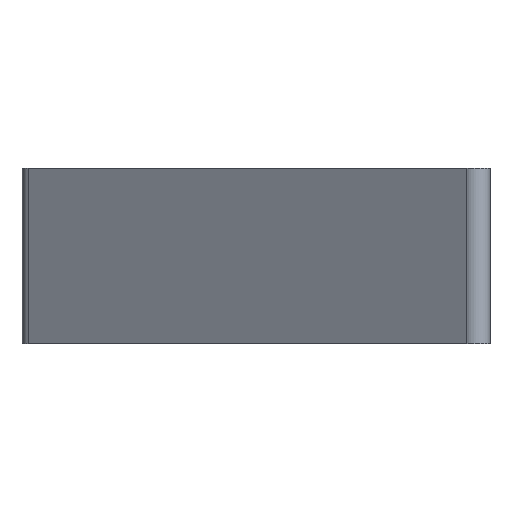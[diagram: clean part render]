
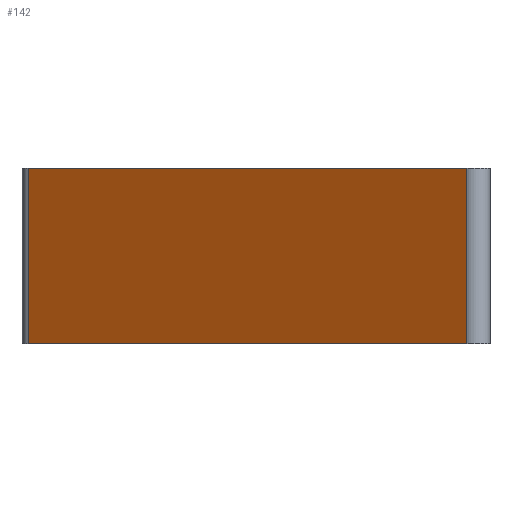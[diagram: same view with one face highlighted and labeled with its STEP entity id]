
A CAD part, left-side view. The second image highlights one B-rep face of the part: STEP entity #142.
In plain terms, the highlighted planar face has unit normal (-0.819, 0.574, 0).
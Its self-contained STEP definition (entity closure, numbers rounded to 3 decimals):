
#142=ADVANCED_FACE('',(#394),#395,.T.);
#180=VERTEX_POINT('',#436);
#232=EDGE_CURVE('',#180,#262,#493,.T.);
#258=EDGE_CURVE('',#316,#322,#523,.T.);
#262=VERTEX_POINT('',#527);
#290=EDGE_CURVE('',#316,#180,#557,.T.);
#316=VERTEX_POINT('',#586);
#322=VERTEX_POINT('',#592);
#366=EDGE_CURVE('',#322,#262,#641,.T.);
#394=FACE_OUTER_BOUND('',#659,.T.);
#395=PLANE('',#660);
#436=CARTESIAN_POINT('',(8.774,12.531,-4.763));
#493=LINE('',#787,#788);
#523=LINE('',#827,#828);
#527=CARTESIAN_POINT('',(0.437,0.625,-4.763));
#557=LINE('',#879,#880);
#586=CARTESIAN_POINT('',(8.774,12.531,0.0));
#592=CARTESIAN_POINT('',(0.437,0.625,0.0));
#641=LINE('',#992,#993);
#659=EDGE_LOOP('',(#1012,#1013,#1014,#1015));
#660=AXIS2_PLACEMENT_3D('',#1016,#1017,#1018);
#787=CARTESIAN_POINT('',(8.774,12.531,-4.763));
#788=VECTOR('',#1119,1.0);
#827=CARTESIAN_POINT('',(8.774,12.531,0.0));
#828=VECTOR('',#1161,1.0);
#879=CARTESIAN_POINT('',(8.774,12.531,0.0));
#880=VECTOR('',#1207,1.0);
#992=CARTESIAN_POINT('',(0.437,0.625,0.0));
#993=VECTOR('',#1302,1.0);
#1012=ORIENTED_EDGE('',*,*,#232,.T.);
#1013=ORIENTED_EDGE('',*,*,#366,.F.);
#1014=ORIENTED_EDGE('',*,*,#258,.F.);
#1015=ORIENTED_EDGE('',*,*,#290,.T.);
#1016=CARTESIAN_POINT('',(8.774,12.531,0.0));
#1017=DIRECTION('',(-0.819,0.574,0.0));
#1018=DIRECTION('',(0.574,0.819,-0.0));
#1119=DIRECTION('',(-0.574,-0.819,0.0));
#1161=DIRECTION('',(-0.574,-0.819,0.0));
#1207=DIRECTION('',(0.0,0.0,-1.0));
#1302=DIRECTION('',(0.0,0.0,-1.0));
